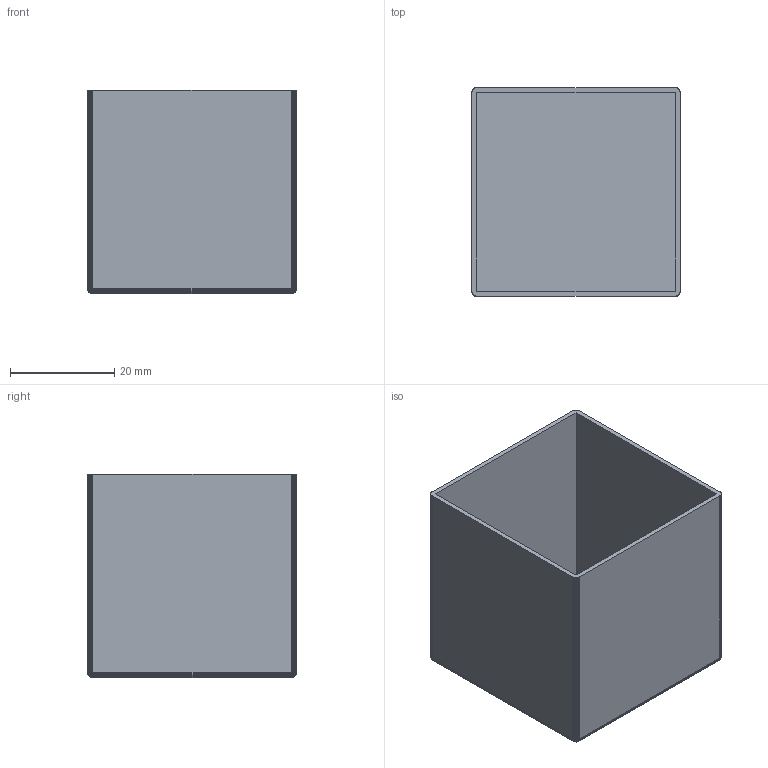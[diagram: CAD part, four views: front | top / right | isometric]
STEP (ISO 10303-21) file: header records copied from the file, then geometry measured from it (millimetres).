
FILE_DESCRIPTION(('Open CASCADE Model'),'2;1');
FILE_NAME('Open CASCADE Shape Model','2026-10-26T19:55:19',('Author'),( 'Open CASCADE'),'Open CASCADE STEP processor 7.9','Open CASCADE 7.9' ,'Unknown');
FILE_SCHEMA(('AUTOMOTIVE_DESIGN { 1 0 10303 214 1 1 1 1 }'));
Products named in the file (1): Open CASCADE STEP translator 7.9 1
Bounding box: 40 x 40 x 39.05 mm (x, y, z)
Volume: 7129.6 mm3; surface area: 15122 mm2
Topology: 1 solids, 1 shells, 5307 faces, 8208 edges, 2904 vertices
Faces by surface type: plane 5307
Entity records: 212444 total; most frequent: DIRECTION 35240, CARTESIAN_POINT 32836, LINE 24624, VECTOR 24624, ORIENTED_EDGE 16416, PCURVE 16416, DEFINITIONAL_REPRESENTATION 16416, EDGE_CURVE 8208
